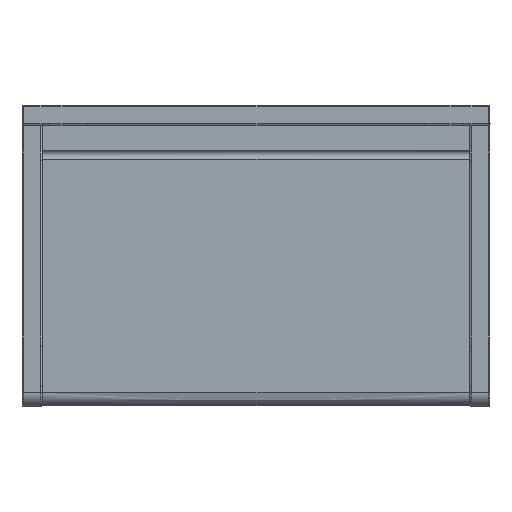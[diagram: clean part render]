
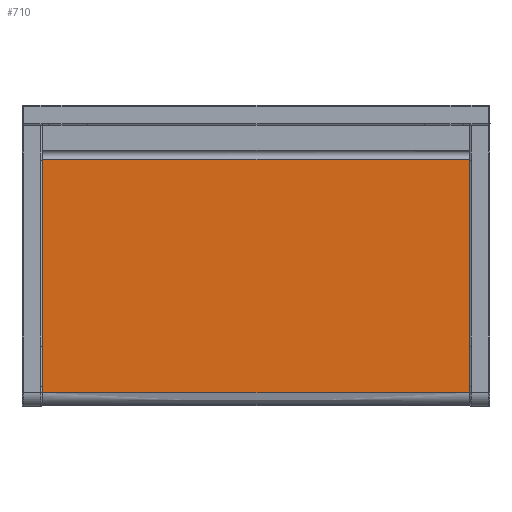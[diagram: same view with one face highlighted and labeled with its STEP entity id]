
A CAD part, top view. The second image highlights one B-rep face of the part: STEP entity #710.
In plain terms, the highlighted planar face has unit normal (0, 0, 1).
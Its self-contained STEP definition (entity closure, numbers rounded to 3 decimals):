
#710=ADVANCED_FACE('',(#1358),#9521,.T.);
#1358=FACE_OUTER_BOUND('',#2036,.T.);
#2036=EDGE_LOOP('',(#4820,#4821,#4822,#4823,#4824,#4825,#4826,#4827,#4828,
#4829));
#4820=ORIENTED_EDGE('',*,*,#6535,.F.);
#4821=ORIENTED_EDGE('',*,*,#6540,.F.);
#4822=ORIENTED_EDGE('',*,*,#6539,.F.);
#4823=ORIENTED_EDGE('',*,*,#6538,.T.);
#4824=ORIENTED_EDGE('',*,*,#6578,.F.);
#4825=ORIENTED_EDGE('',*,*,#6579,.F.);
#4826=ORIENTED_EDGE('',*,*,#6573,.F.);
#4827=ORIENTED_EDGE('',*,*,#6575,.F.);
#4828=ORIENTED_EDGE('',*,*,#6574,.T.);
#4829=ORIENTED_EDGE('',*,*,#6536,.F.);
#6535=EDGE_CURVE('',#9214,#9215,#8310,.T.);
#6536=EDGE_CURVE('',#9215,#9218,#8311,.T.);
#6538=EDGE_CURVE('',#9220,#9248,#7287,.T.);
#6539=EDGE_CURVE('',#9220,#9222,#8312,.T.);
#6540=EDGE_CURVE('',#9222,#9214,#8313,.T.);
#6573=EDGE_CURVE('',#9244,#9245,#8322,.T.);
#6574=EDGE_CURVE('',#9246,#9218,#8323,.T.);
#6575=EDGE_CURVE('',#9246,#9244,#8324,.T.);
#6578=EDGE_CURVE('',#9249,#9248,#8325,.T.);
#6579=EDGE_CURVE('',#9245,#9249,#8326,.T.);
#7287=(
BOUNDED_CURVE()
B_SPLINE_CURVE(1,(#18899,#18900),.UNSPECIFIED.,.F.,.F.)
B_SPLINE_CURVE_WITH_KNOTS((2,2),(-966.,-328.),.UNSPECIFIED.)
CURVE()
GEOMETRIC_REPRESENTATION_ITEM()
RATIONAL_B_SPLINE_CURVE((1.,1.))
REPRESENTATION_ITEM('')
);
#8310=B_SPLINE_CURVE_WITH_KNOTS('',1,(#18890,#18891),.UNSPECIFIED.,.F.,
 .F.,(2,2),(0.,2.),.UNSPECIFIED.);
#8311=B_SPLINE_CURVE_WITH_KNOTS('',1,(#18892,#18893),.UNSPECIFIED.,.F.,
 .F.,(2,2),(0.,11.),.UNSPECIFIED.);
#8312=B_SPLINE_CURVE_WITH_KNOTS('',1,(#18901,#18902),.UNSPECIFIED.,.F.,
 .F.,(2,2),(0.,133.),.UNSPECIFIED.);
#8313=B_SPLINE_CURVE_WITH_KNOTS('',1,(#18903,#18904),.UNSPECIFIED.,.F.,
 .F.,(2,2),(0.,203.),.UNSPECIFIED.);
#8322=B_SPLINE_CURVE_WITH_KNOTS('',1,(#19048,#19049),.UNSPECIFIED.,.F.,
 .F.,(2,2),(0.,2.),.UNSPECIFIED.);
#8323=B_SPLINE_CURVE_WITH_KNOTS('',3,(#19050,#19051,#19052,#19053),
 .UNSPECIFIED.,.F.,.F.,(4,4),(0.994,635.006),
 .UNSPECIFIED.);
#8324=B_SPLINE_CURVE_WITH_KNOTS('',1,(#19054,#19055),.UNSPECIFIED.,.F.,
 .F.,(2,2),(0.,11.),.UNSPECIFIED.);
#8325=B_SPLINE_CURVE_WITH_KNOTS('',1,(#19063,#19064),.UNSPECIFIED.,.F.,
 .F.,(2,2),(0.,133.),.UNSPECIFIED.);
#8326=B_SPLINE_CURVE_WITH_KNOTS('',1,(#19065,#19066),.UNSPECIFIED.,.F.,
 .F.,(2,2),(0.,203.),.UNSPECIFIED.);
#9214=VERTEX_POINT('',#18823);
#9215=VERTEX_POINT('',#18824);
#9218=VERTEX_POINT('',#18827);
#9220=VERTEX_POINT('',#18829);
#9222=VERTEX_POINT('',#18831);
#9244=VERTEX_POINT('',#18853);
#9245=VERTEX_POINT('',#18854);
#9246=VERTEX_POINT('',#18855);
#9248=VERTEX_POINT('',#18857);
#9249=VERTEX_POINT('',#18858);
#9521=PLANE('',#10169);
#10169=AXIS2_PLACEMENT_3D('',#18810,#10348,$);
#10348=DIRECTION('',(0.,0.,1.));
#18810=CARTESIAN_POINT('',(670.,9.,479.));
#18823=CARTESIAN_POINT('',(1309.,33.,479.));
#18824=CARTESIAN_POINT('',(1309.,31.,479.));
#18827=CARTESIAN_POINT('',(1309.,20.,479.));
#18829=CARTESIAN_POINT('',(1309.,369.,479.));
#18831=CARTESIAN_POINT('',(1309.,236.,479.));
#18853=CARTESIAN_POINT('',(671.,31.,479.));
#18854=CARTESIAN_POINT('',(671.,33.,479.));
#18855=CARTESIAN_POINT('',(671.,20.,479.));
#18857=CARTESIAN_POINT('',(671.,369.,479.));
#18858=CARTESIAN_POINT('',(671.,236.,479.));
#18890=CARTESIAN_POINT('',(1309.,33.,479.));
#18891=CARTESIAN_POINT('',(1309.,31.,479.));
#18892=CARTESIAN_POINT('',(1309.,31.,479.));
#18893=CARTESIAN_POINT('',(1309.,20.,479.));
#18899=CARTESIAN_POINT('',(1309.,369.,479.));
#18900=CARTESIAN_POINT('',(671.,369.,479.));
#18901=CARTESIAN_POINT('',(1309.,369.,479.));
#18902=CARTESIAN_POINT('',(1309.,236.,479.));
#18903=CARTESIAN_POINT('',(1309.,236.,479.));
#18904=CARTESIAN_POINT('',(1309.,33.,479.));
#19048=CARTESIAN_POINT('',(671.,31.,479.));
#19049=CARTESIAN_POINT('',(671.,33.,479.));
#19050=CARTESIAN_POINT('',(671.,20.,479.));
#19051=CARTESIAN_POINT('',(883.667,20.,479.));
#19052=CARTESIAN_POINT('',(1096.333,20.,479.));
#19053=CARTESIAN_POINT('',(1309.,20.,479.));
#19054=CARTESIAN_POINT('',(671.,20.,479.));
#19055=CARTESIAN_POINT('',(671.,31.,479.));
#19063=CARTESIAN_POINT('',(671.,236.,479.));
#19064=CARTESIAN_POINT('',(671.,369.,479.));
#19065=CARTESIAN_POINT('',(671.,33.,479.));
#19066=CARTESIAN_POINT('',(671.,236.,479.));
